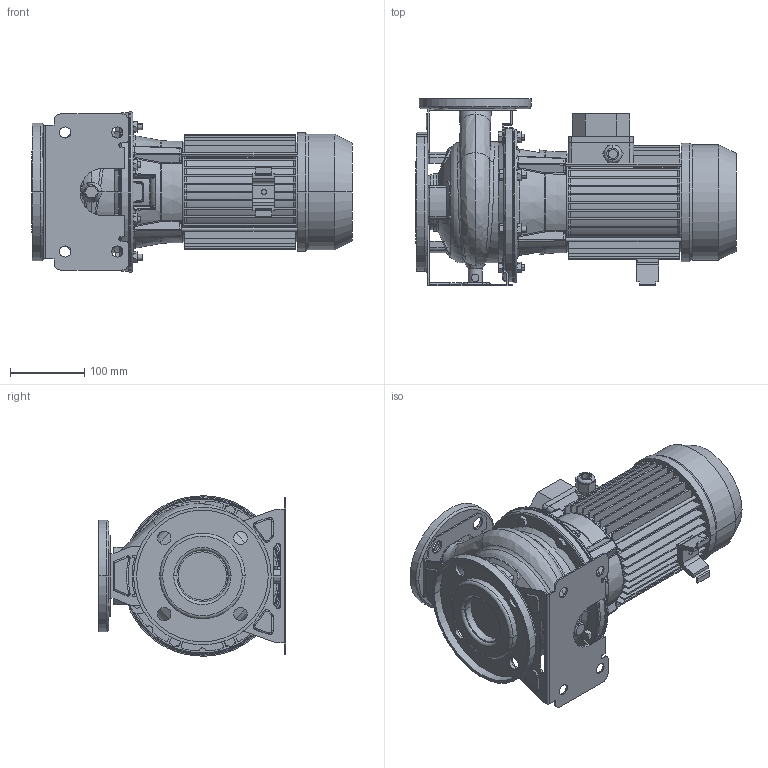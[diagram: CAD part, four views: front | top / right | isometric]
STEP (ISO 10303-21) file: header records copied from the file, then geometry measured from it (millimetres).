
FILE_DESCRIPTION((''),'2;1');
FILE_NAME('3M_40-125_1_5_IE3_ASM','2016-09-28T',('rosa'),('"Ebara Pumps Europe +39.444.706811"'),'PRO/ENGINEER BY PARAMETRIC TECHNOLOGY CORPORATION, 2012130','PRO/ENGINEER BY PARAMETRIC TECHNOLOGY CORPORATION, 2012130','');
FILE_SCHEMA(('AUTOMOTIVE_DESIGN { 1 0 10303 214 1 1 1 1 }'));
Products named in the file (13): CORPO_40-125_AF0; ASP_40-125; FLANGIA_DIN_65; MAND_40-125; FLANGIA_DIN_40; BASE_3M_40-125; CORPO_SALDATO_40-125_ASM; 80740; MEC_80X130_IE3; SOSTEGNO_72009; 72015; 6; 3M_40-125_1_5_IE3_ASM
Assembly tree (19 placements, depth 3):
  3M_40-125_1_5_IE3_ASM
    CORPO_SALDATO_40-125_ASM
      CORPO_40-125_AF0
      ASP_40-125
      FLANGIA_DIN_65
      MAND_40-125
      FLANGIA_DIN_40
      BASE_3M_40-125
    80740
    MEC_80X130_IE3
    SOSTEGNO_72009
    72015
    6  x8
Bounding box: 431 x 252 x 215.8 mm (x, y, z)
Volume: 4813390.6 mm3; surface area: 987833.9 mm2
Topology: 21 solids, 29 shells, 3289 faces, 8647 edges, 5302 vertices
Faces by surface type: plane 822, bspline 812, cylinder 732, cone 412, torus 386, sphere 73, extrusion 52
Entity records: 246939 total; most frequent: CARTESIAN_POINT 152806, ORIENTED_EDGE 16092, DIRECTION 12414, EDGE_CURVE 8047, VERTEX_POINT 5046, AXIS2_PLACEMENT_3D 5020, PRESENTATION_STYLE_ASSIGNMENT 4581, STYLED_ITEM 4581
